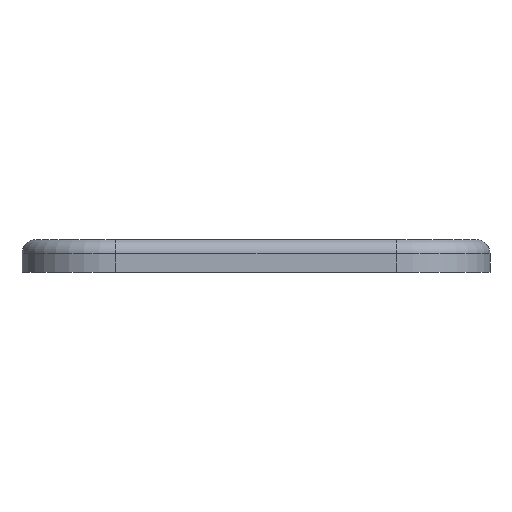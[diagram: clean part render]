
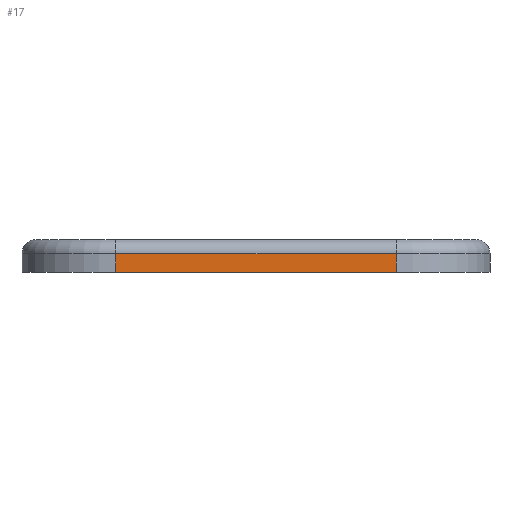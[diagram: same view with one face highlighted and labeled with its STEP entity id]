
A CAD part, left-side view. The second image highlights one B-rep face of the part: STEP entity #17.
In plain terms, the highlighted planar face has unit normal (-1, 0, 0).
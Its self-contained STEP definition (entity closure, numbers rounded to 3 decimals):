
#17 = ADVANCED_FACE('',(#18),#32,.F.);
#18 = FACE_BOUND('',#19,.F.);
#19 = EDGE_LOOP('',(#20,#55,#83,#111));
#20 = ORIENTED_EDGE('',*,*,#21,.F.);
#21 = EDGE_CURVE('',#22,#24,#26,.T.);
#22 = VERTEX_POINT('',#23);
#23 = CARTESIAN_POINT('',(-14.,-6.,0.));
#24 = VERTEX_POINT('',#25);
#25 = CARTESIAN_POINT('',(-14.,-6.,0.8));
#26 = SURFACE_CURVE('',#27,(#31,#43),.PCURVE_S1.);
#27 = LINE('',#28,#29);
#28 = CARTESIAN_POINT('',(-14.,-6.,0.));
#29 = VECTOR('',#30,1.);
#30 = DIRECTION('',(0.,0.,1.));
#31 = PCURVE('',#32,#37);
#32 = PLANE('',#33);
#33 = AXIS2_PLACEMENT_3D('',#34,#35,#36);
#34 = CARTESIAN_POINT('',(-14.,-10.,0.));
#35 = DIRECTION('',(1.,0.,0.));
#36 = DIRECTION('',(0.,0.,1.));
#37 = DEFINITIONAL_REPRESENTATION('',(#38),#42);
#38 = LINE('',#39,#40);
#39 = CARTESIAN_POINT('',(0.,-4.));
#40 = VECTOR('',#41,1.);
#41 = DIRECTION('',(1.,0.));
#42 = ( GEOMETRIC_REPRESENTATION_CONTEXT(2) 
PARAMETRIC_REPRESENTATION_CONTEXT() REPRESENTATION_CONTEXT('2D SPACE',''
  ) );
#43 = PCURVE('',#44,#49);
#44 = CYLINDRICAL_SURFACE('',#45,4.);
#45 = AXIS2_PLACEMENT_3D('',#46,#47,#48);
#46 = CARTESIAN_POINT('',(-10.,-6.,0.));
#47 = DIRECTION('',(0.,0.,1.));
#48 = DIRECTION('',(-1.,-0.,0.));
#49 = DEFINITIONAL_REPRESENTATION('',(#50),#54);
#50 = LINE('',#51,#52);
#51 = CARTESIAN_POINT('',(0.,0.));
#52 = VECTOR('',#53,1.);
#53 = DIRECTION('',(0.,1.));
#54 = ( GEOMETRIC_REPRESENTATION_CONTEXT(2) 
PARAMETRIC_REPRESENTATION_CONTEXT() REPRESENTATION_CONTEXT('2D SPACE',''
  ) );
#55 = ORIENTED_EDGE('',*,*,#56,.T.);
#56 = EDGE_CURVE('',#22,#57,#59,.T.);
#57 = VERTEX_POINT('',#58);
#58 = CARTESIAN_POINT('',(-14.,6.,0.));
#59 = SURFACE_CURVE('',#60,(#64,#71),.PCURVE_S1.);
#60 = LINE('',#61,#62);
#61 = CARTESIAN_POINT('',(-14.,-10.,0.));
#62 = VECTOR('',#63,1.);
#63 = DIRECTION('',(0.,1.,0.));
#64 = PCURVE('',#32,#65);
#65 = DEFINITIONAL_REPRESENTATION('',(#66),#70);
#66 = LINE('',#67,#68);
#67 = CARTESIAN_POINT('',(0.,0.));
#68 = VECTOR('',#69,1.);
#69 = DIRECTION('',(0.,-1.));
#70 = ( GEOMETRIC_REPRESENTATION_CONTEXT(2) 
PARAMETRIC_REPRESENTATION_CONTEXT() REPRESENTATION_CONTEXT('2D SPACE',''
  ) );
#71 = PCURVE('',#72,#77);
#72 = PLANE('',#73);
#73 = AXIS2_PLACEMENT_3D('',#74,#75,#76);
#74 = CARTESIAN_POINT('',(-14.,-10.,0.));
#75 = DIRECTION('',(0.,0.,1.));
#76 = DIRECTION('',(1.,0.,0.));
#77 = DEFINITIONAL_REPRESENTATION('',(#78),#82);
#78 = LINE('',#79,#80);
#79 = CARTESIAN_POINT('',(0.,0.));
#80 = VECTOR('',#81,1.);
#81 = DIRECTION('',(0.,1.));
#82 = ( GEOMETRIC_REPRESENTATION_CONTEXT(2) 
PARAMETRIC_REPRESENTATION_CONTEXT() REPRESENTATION_CONTEXT('2D SPACE',''
  ) );
#83 = ORIENTED_EDGE('',*,*,#84,.T.);
#84 = EDGE_CURVE('',#57,#85,#87,.T.);
#85 = VERTEX_POINT('',#86);
#86 = CARTESIAN_POINT('',(-14.,6.,0.8));
#87 = SURFACE_CURVE('',#88,(#92,#99),.PCURVE_S1.);
#88 = LINE('',#89,#90);
#89 = CARTESIAN_POINT('',(-14.,6.,0.));
#90 = VECTOR('',#91,1.);
#91 = DIRECTION('',(0.,0.,1.));
#92 = PCURVE('',#32,#93);
#93 = DEFINITIONAL_REPRESENTATION('',(#94),#98);
#94 = LINE('',#95,#96);
#95 = CARTESIAN_POINT('',(0.,-16.));
#96 = VECTOR('',#97,1.);
#97 = DIRECTION('',(1.,0.));
#98 = ( GEOMETRIC_REPRESENTATION_CONTEXT(2) 
PARAMETRIC_REPRESENTATION_CONTEXT() REPRESENTATION_CONTEXT('2D SPACE',''
  ) );
#99 = PCURVE('',#100,#105);
#100 = CYLINDRICAL_SURFACE('',#101,4.);
#101 = AXIS2_PLACEMENT_3D('',#102,#103,#104);
#102 = CARTESIAN_POINT('',(-10.,6.,0.));
#103 = DIRECTION('',(0.,0.,1.));
#104 = DIRECTION('',(-1.,-0.,0.));
#105 = DEFINITIONAL_REPRESENTATION('',(#106),#110);
#106 = LINE('',#107,#108);
#107 = CARTESIAN_POINT('',(-0.,0.));
#108 = VECTOR('',#109,1.);
#109 = DIRECTION('',(-0.,1.));
#110 = ( GEOMETRIC_REPRESENTATION_CONTEXT(2) 
PARAMETRIC_REPRESENTATION_CONTEXT() REPRESENTATION_CONTEXT('2D SPACE',''
  ) );
#111 = ORIENTED_EDGE('',*,*,#112,.F.);
#112 = EDGE_CURVE('',#24,#85,#113,.T.);
#113 = SURFACE_CURVE('',#114,(#118,#125),.PCURVE_S1.);
#114 = LINE('',#115,#116);
#115 = CARTESIAN_POINT('',(-14.,-6.,0.8));
#116 = VECTOR('',#117,1.);
#117 = DIRECTION('',(0.,1.,0.));
#118 = PCURVE('',#32,#119);
#119 = DEFINITIONAL_REPRESENTATION('',(#120),#124);
#120 = LINE('',#121,#122);
#121 = CARTESIAN_POINT('',(0.8,-4.));
#122 = VECTOR('',#123,1.);
#123 = DIRECTION('',(0.,-1.));
#124 = ( GEOMETRIC_REPRESENTATION_CONTEXT(2) 
PARAMETRIC_REPRESENTATION_CONTEXT() REPRESENTATION_CONTEXT('2D SPACE',''
  ) );
#125 = PCURVE('',#126,#131);
#126 = CYLINDRICAL_SURFACE('',#127,0.6);
#127 = AXIS2_PLACEMENT_3D('',#128,#129,#130);
#128 = CARTESIAN_POINT('',(-13.4,-6.,0.8));
#129 = DIRECTION('',(0.,1.,0.));
#130 = DIRECTION('',(-1.,0.,0.));
#131 = DEFINITIONAL_REPRESENTATION('',(#132),#136);
#132 = LINE('',#133,#134);
#133 = CARTESIAN_POINT('',(0.,0.));
#134 = VECTOR('',#135,1.);
#135 = DIRECTION('',(0.,1.));
#136 = ( GEOMETRIC_REPRESENTATION_CONTEXT(2) 
PARAMETRIC_REPRESENTATION_CONTEXT() REPRESENTATION_CONTEXT('2D SPACE',''
  ) );
